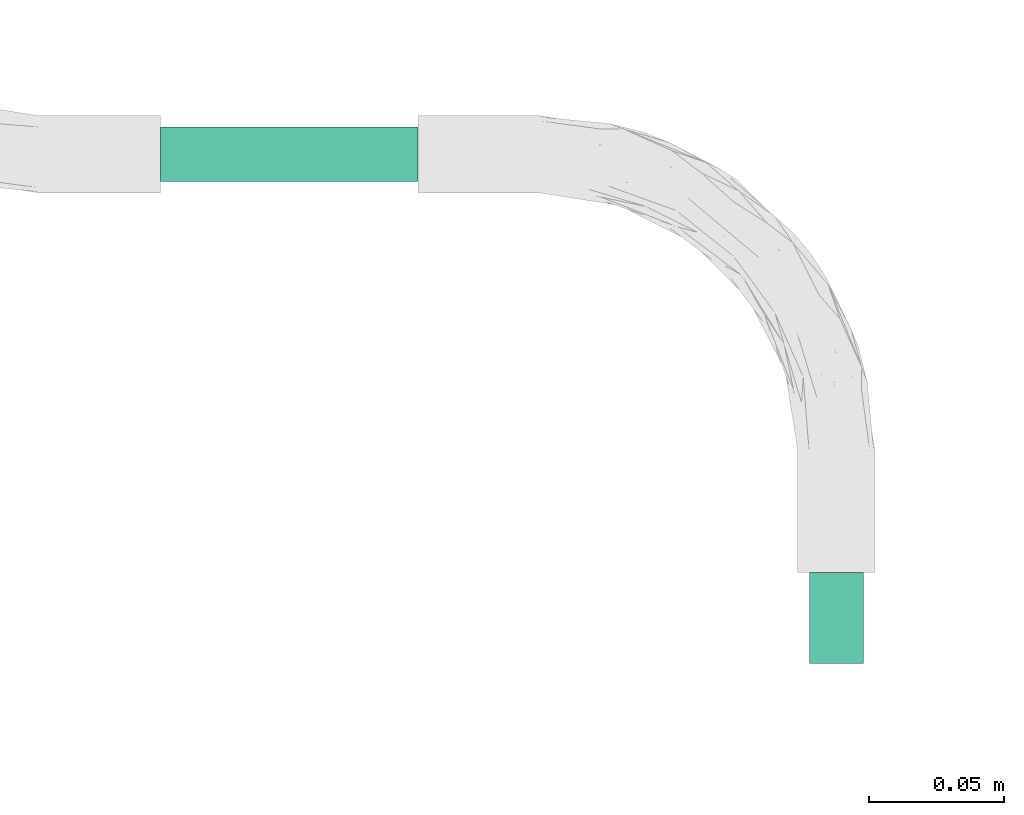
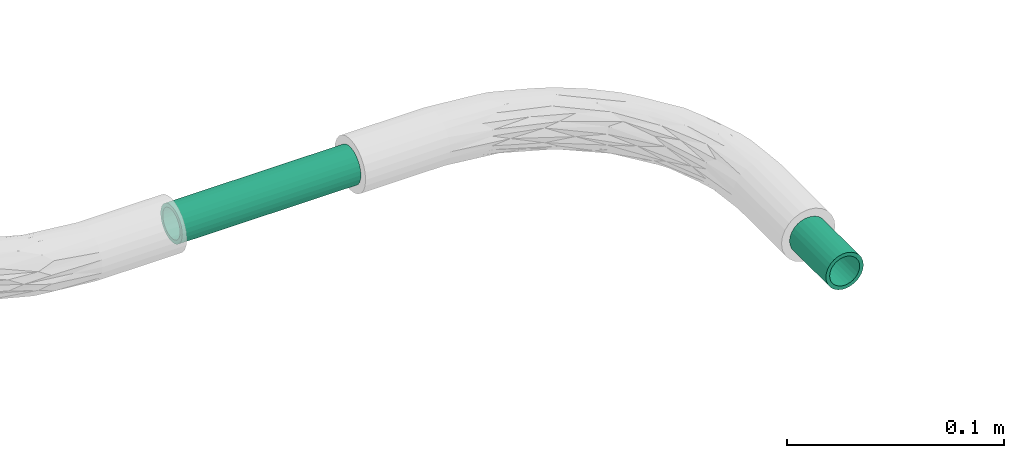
# One storey, part 29 of 51: 2 flow segments.
"""IFC2X3 building model written with IfcOpenShell, lengths in millimetres."""

from ifc_helpers import new_model, entity, si_unit, converted_unit, derived_unit, direction, frame, origin_with_axes, origin_2d_with_axis, place, context, subcontext, project, spatial, hollow_circle, extrude, source, transform, mapped, type_object, element, save


model = new_model("IFC2X3")

# Units and contexts
model_context = context("Model", 3, precision=0.01, world=frame((0.0, 4.29681676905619e-09, 0.0)), true_north=direction((4.01073788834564e-13, 1.0)))
plan_context = context("Plan", 3, precision=0.01, world=frame((0.0, 4.29681676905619e-09, 0.0)), true_north=direction((4.01073788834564e-13, 1.0)))
body_context = subcontext(model_context, "Body", "Model", "MODEL_VIEW")
ifc_project = project(units=[converted_unit("PLANEANGLEUNIT", "DEGREE", entity("IfcPositiveLengthMeasure", 0.0174532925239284), si_unit("PLANEANGLEUNIT", "RADIAN"), dimensions=[0, 0, 0, 0, 0, 0, 0]), si_unit("AREAUNIT", "SQUARE_METRE"), si_unit("LENGTHUNIT", "METRE", prefix="MILLI"), si_unit("MASSUNIT", "GRAM", prefix="KILO"), si_unit("POWERUNIT", "WATT"), si_unit("PRESSUREUNIT", "PASCAL"), si_unit("FORCEUNIT", "NEWTON", prefix="KILO"), si_unit("ELECTRICVOLTAGEUNIT", "VOLT"), si_unit("ELECTRICCURRENTUNIT", "AMPERE"), si_unit("THERMODYNAMICTEMPERATUREUNIT", "DEGREE_CELSIUS"), si_unit("TIMEUNIT", "SECOND"), si_unit("VOLUMEUNIT", "CUBIC_METRE"), derived_unit("LINEARVELOCITYUNIT", [(si_unit("LENGTHUNIT", "METRE"), 1), (si_unit("TIMEUNIT", "SECOND"), -1)]), derived_unit("VOLUMETRICFLOWRATEUNIT", [(si_unit("VOLUMEUNIT", "CUBIC_METRE"), 1), (si_unit("TIMEUNIT", "SECOND"), -1)]), derived_unit("THERMALTRANSMITTANCEUNIT", [(si_unit("POWERUNIT", "WATT"), 1), (si_unit("THERMODYNAMICTEMPERATUREUNIT", "KELVIN"), -1), (si_unit("AREAUNIT", "SQUARE_METRE"), -1)]), derived_unit("SOUNDPRESSUREUNIT", [(si_unit("PRESSUREUNIT", "PASCAL"), 1)])], contexts=[model_context, plan_context])

# Site, building, storey
site_placement = place(None, frame((0.0, -4.29681676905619e-09, 0.0), z_axis=(0.0, 0.0, 1.0), x_axis=(1.0, 0.0, 0.0)))
site = spatial("IfcSite", under=ifc_project, at=site_placement, Name="ENGM", CompositionType="ELEMENT")
building_placement = place(site_placement, frame((0.0, 4.29681676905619e-09, 0.0), z_axis=(0.0, 0.0, 1.0), x_axis=(1.0, 0.0, 0.0)))
building = spatial("IfcBuilding", under=site, at=building_placement, Name="TI", CompositionType="ELEMENT")
storey_placement = place(building_placement, frame((0.0, 0.0, 210900.0), z_axis=(0.0, 0.0, 1.0), x_axis=(1.0, 0.0, 0.0)))
storey = spatial("IfcBuildingStorey", under=building, at=storey_placement, Name="Nivå F", CompositionType="ELEMENT", Elevation=210900.0)

# Flow segments
cable_carrier_segment_type = type_object("IfcCableCarrierSegmentType", Name="Trekkerør, korrugert", PredefinedType="CONDUITSEGMENT")
shared_shape_1 = source(origin_with_axes(), body_context, "Body", "SweptSolid", [
    extrude(hollow_circle(Radius=10.0, WallThickness=2.0, at=origin_2d_with_axis()), frame((0.0, 0.0, 0.0), z_axis=(1.0, 0.0, 0.0), x_axis=(0.0, 1.0, 0.0)), (0.0, 0.0, 1.0), 95.1),
])
flow_segment_1_placement = place(storey_placement, frame((611632.28301, 699287.68309, -110.0), z_axis=(0.0, 0.0, 1.0), x_axis=(-1.0, 0.0, 0.0)))
element("IfcFlowSegment", 1, at=flow_segment_1_placement, inside=storey, type_object=cable_carrier_segment_type, Name="Trekkerør, korrugert", context=body_context, shape_type="MappedRepresentation", body=[
    mapped(shared_shape_1, transform((0.0, 0.0, 0.0), scale=1.0)),
])
shared_shape_2 = source(origin_with_axes(), body_context, "Body", "SweptSolid", [
    extrude(hollow_circle(Radius=10.0, WallThickness=2.0, at=origin_2d_with_axis()), frame((0.0, 0.0, 0.0), z_axis=(1.0, 0.0, 0.0), x_axis=(0.0, 1.0, 0.0)), (0.0, 0.0, 1.0), 33.5),
])
flow_segment_2_placement = place(storey_placement, frame((611786.83926, 699133.12684, -110.0), z_axis=(0.0, 0.0, 1.0), x_axis=(0.0, -1.0, 0.0)))
element("IfcFlowSegment", 2, at=flow_segment_2_placement, inside=storey, type_object=cable_carrier_segment_type, Name="Trekkerør, korrugert", context=body_context, shape_type="MappedRepresentation", body=[
    mapped(shared_shape_2, transform((0.0, 0.0, 0.0), scale=1.0)),
])

save(model, "model.ifc")
